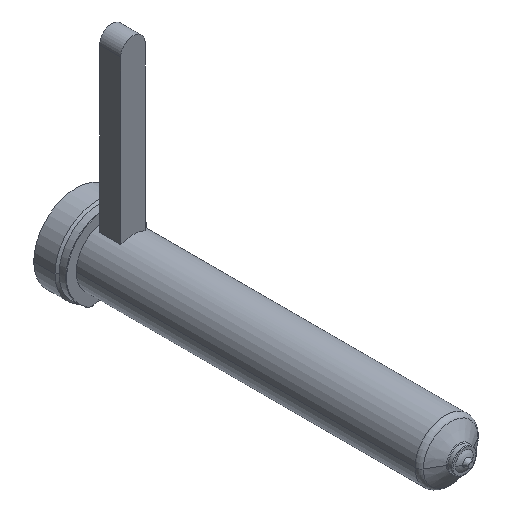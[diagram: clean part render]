
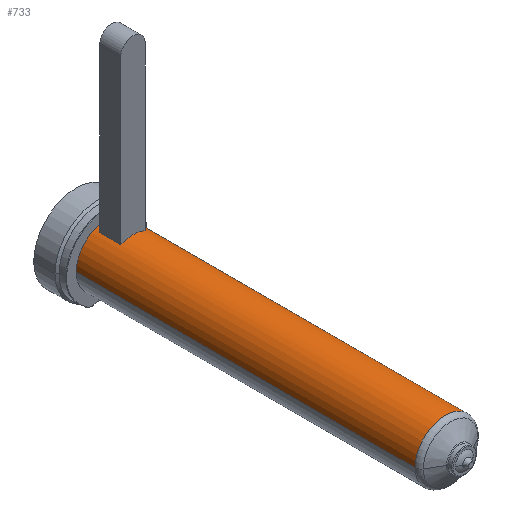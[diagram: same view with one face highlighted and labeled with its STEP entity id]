
A CAD part, isometric view. The second image highlights one B-rep face of the part: STEP entity #733.
In plain terms, the highlighted cylindrical face has radius 15 mm (diameter 30 mm), a partial arc.
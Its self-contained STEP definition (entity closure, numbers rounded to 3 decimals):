
#161=DIRECTION('',(0.,-1.,0.));
#162=VECTOR('',#161,167.283);
#163=CARTESIAN_POINT('',(15.,0.,0.));
#164=LINE('',#163,#162);
#165=CARTESIAN_POINT('',(0.,-167.283,0.));
#166=DIRECTION('',(0.,1.,0.));
#167=DIRECTION('',(-1.,0.,0.));
#168=AXIS2_PLACEMENT_3D('',#165,#166,#167);
#170=DIRECTION('',(0.,1.,0.));
#171=VECTOR('',#170,167.283);
#172=CARTESIAN_POINT('',(-15.,-167.283,0.));
#173=LINE('',#172,#171);
#174=CARTESIAN_POINT('',(0.,0.,0.));
#175=DIRECTION('',(0.,1.,0.));
#176=DIRECTION('',(-1.,0.,0.));
#177=AXIS2_PLACEMENT_3D('',#174,#175,#176);
#323=DIRECTION('',(0.,-1.,0.));
#324=VECTOR('',#323,10.5);
#325=CARTESIAN_POINT('',(-6.,-2.5,13.748));
#326=LINE('',#325,#324);
#331=CARTESIAN_POINT('',(0.,-13.,0.));
#332=DIRECTION('',(0.,1.,0.));
#333=DIRECTION('',(-0.4,0.,0.917));
#334=AXIS2_PLACEMENT_3D('',#331,#332,#333);
#366=CARTESIAN_POINT('',(0.,-2.5,0.));
#367=DIRECTION('',(0.,-1.,0.));
#368=DIRECTION('',(0.4,0.,0.917));
#369=AXIS2_PLACEMENT_3D('',#366,#367,#368);
#371=DIRECTION('',(0.,-1.,0.));
#372=VECTOR('',#371,10.5);
#373=CARTESIAN_POINT('',(6.,-2.5,13.748));
#374=LINE('',#373,#372);
#458=CARTESIAN_POINT('',(-15.,0.,0.));
#459=CARTESIAN_POINT('',(15.,0.,0.));
#460=VERTEX_POINT('',#458);
#461=VERTEX_POINT('',#459);
#470=CARTESIAN_POINT('',(6.,-2.5,13.748));
#471=VERTEX_POINT('',#470);
#472=CARTESIAN_POINT('',(-6.,-2.5,13.748));
#473=VERTEX_POINT('',#472);
#482=CARTESIAN_POINT('',(15.,-167.283,0.));
#483=VERTEX_POINT('',#482);
#492=CARTESIAN_POINT('',(-15.,-167.283,0.));
#493=VERTEX_POINT('',#492);
#510=CARTESIAN_POINT('',(-6.,-13.,13.748));
#511=CARTESIAN_POINT('',(6.,-13.,13.748));
#512=VERTEX_POINT('',#510);
#513=VERTEX_POINT('',#511);
#711=CARTESIAN_POINT('',(0.,16.4,0.));
#712=DIRECTION('',(0.,-1.,0.));
#713=DIRECTION('',(-1.,0.,0.));
#714=AXIS2_PLACEMENT_3D('',#711,#712,#713);
#715=CYLINDRICAL_SURFACE('',#714,15.);
#716=ORIENTED_EDGE('',*,*,#705,.T.);
#718=ORIENTED_EDGE('',*,*,#717,.F.);
#719=ORIENTED_EDGE('',*,*,#701,.T.);
#720=ORIENTED_EDGE('',*,*,#691,.T.);
#721=EDGE_LOOP('',(#716,#718,#719,#720));
#722=FACE_OUTER_BOUND('',#721,.F.);
#724=ORIENTED_EDGE('',*,*,#723,.T.);
#726=ORIENTED_EDGE('',*,*,#725,.T.);
#728=ORIENTED_EDGE('',*,*,#727,.F.);
#730=ORIENTED_EDGE('',*,*,#729,.T.);
#731=EDGE_LOOP('',(#724,#726,#728,#730));
#732=FACE_BOUND('',#731,.F.);
#733=ADVANCED_FACE('',(#722,#732),#715,.T.);
#169=CIRCLE('',#168,15.);
#178=CIRCLE('',#177,15.);
#335=CIRCLE('',#334,15.);
#370=CIRCLE('',#369,15.);
#691=EDGE_CURVE('',#460,#461,#178,.T.);
#701=EDGE_CURVE('',#493,#460,#173,.T.);
#705=EDGE_CURVE('',#461,#483,#164,.T.);
#717=EDGE_CURVE('',#493,#483,#169,.T.);
#723=EDGE_CURVE('',#473,#512,#326,.T.);
#725=EDGE_CURVE('',#512,#513,#335,.T.);
#727=EDGE_CURVE('',#471,#513,#374,.T.);
#729=EDGE_CURVE('',#471,#473,#370,.T.);
